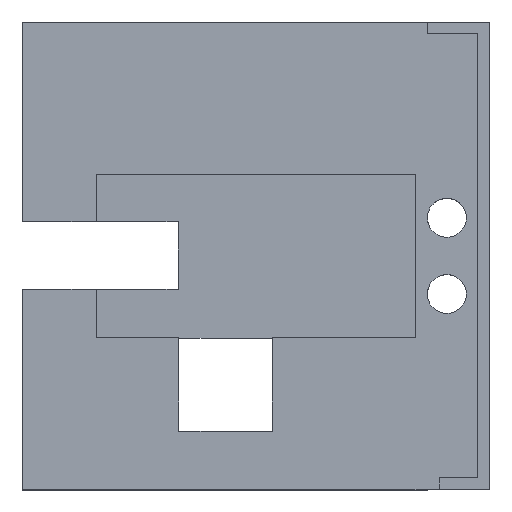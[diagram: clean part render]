
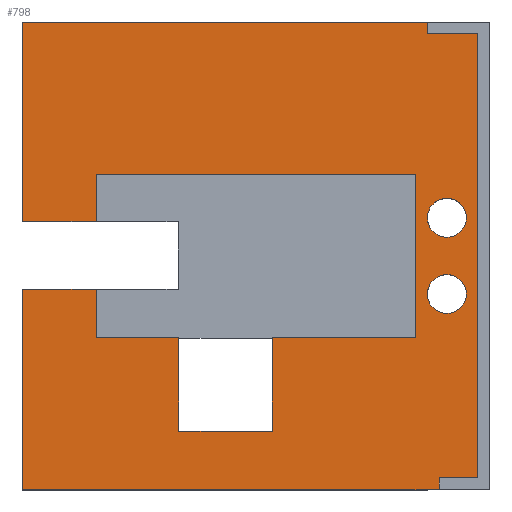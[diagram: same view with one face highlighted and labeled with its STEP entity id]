
A CAD part, top view. The second image highlights one B-rep face of the part: STEP entity #798.
In plain terms, the highlighted planar face has unit normal (0, 0, 1).
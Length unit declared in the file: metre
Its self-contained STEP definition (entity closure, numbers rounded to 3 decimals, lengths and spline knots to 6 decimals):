
#28=LINE('',#1138,#115);
#29=LINE('',#1141,#116);
#30=LINE('',#1143,#117);
#31=LINE('',#1145,#118);
#32=LINE('',#1147,#119);
#33=LINE('',#1149,#120);
#34=LINE('',#1151,#121);
#35=LINE('',#1153,#122);
#36=LINE('',#1155,#123);
#37=LINE('',#1157,#124);
#38=LINE('',#1159,#125);
#39=LINE('',#1161,#126);
#40=LINE('',#1163,#127);
#41=LINE('',#1165,#128);
#42=LINE('',#1167,#129);
#43=LINE('',#1169,#130);
#44=LINE('',#1171,#131);
#45=LINE('',#1173,#132);
#46=LINE('',#1175,#133);
#47=LINE('',#1177,#134);
#115=VECTOR('',#925,1.);
#116=VECTOR('',#926,1.);
#117=VECTOR('',#927,1.);
#118=VECTOR('',#928,1.);
#119=VECTOR('',#929,1.);
#120=VECTOR('',#930,1.);
#121=VECTOR('',#931,1.);
#122=VECTOR('',#932,1.);
#123=VECTOR('',#933,1.);
#124=VECTOR('',#934,1.);
#125=VECTOR('',#935,1.);
#126=VECTOR('',#936,1.);
#127=VECTOR('',#937,1.);
#128=VECTOR('',#938,1.);
#129=VECTOR('',#939,1.);
#130=VECTOR('',#940,1.);
#131=VECTOR('',#941,1.);
#132=VECTOR('',#942,1.);
#133=VECTOR('',#943,1.);
#134=VECTOR('',#944,1.);
#202=ORIENTED_EDGE('',*,*,#424,.F.);
#203=ORIENTED_EDGE('',*,*,#425,.F.);
#204=ORIENTED_EDGE('',*,*,#426,.T.);
#205=ORIENTED_EDGE('',*,*,#427,.T.);
#206=ORIENTED_EDGE('',*,*,#428,.F.);
#207=ORIENTED_EDGE('',*,*,#429,.T.);
#208=ORIENTED_EDGE('',*,*,#430,.T.);
#209=ORIENTED_EDGE('',*,*,#431,.F.);
#210=ORIENTED_EDGE('',*,*,#432,.F.);
#211=ORIENTED_EDGE('',*,*,#433,.T.);
#212=ORIENTED_EDGE('',*,*,#434,.F.);
#213=ORIENTED_EDGE('',*,*,#435,.F.);
#214=ORIENTED_EDGE('',*,*,#436,.T.);
#215=ORIENTED_EDGE('',*,*,#437,.T.);
#216=ORIENTED_EDGE('',*,*,#438,.F.);
#217=ORIENTED_EDGE('',*,*,#439,.F.);
#218=ORIENTED_EDGE('',*,*,#440,.F.);
#219=ORIENTED_EDGE('',*,*,#441,.T.);
#220=ORIENTED_EDGE('',*,*,#442,.F.);
#221=ORIENTED_EDGE('',*,*,#443,.F.);
#222=ORIENTED_EDGE('',*,*,#444,.T.);
#223=ORIENTED_EDGE('',*,*,#445,.T.);
#424=EDGE_CURVE('',#535,#535,#613,.T.);
#425=EDGE_CURVE('',#536,#536,#614,.T.);
#426=EDGE_CURVE('',#537,#538,#28,.T.);
#427=EDGE_CURVE('',#538,#539,#29,.T.);
#428=EDGE_CURVE('',#540,#539,#30,.T.);
#429=EDGE_CURVE('',#540,#541,#31,.T.);
#430=EDGE_CURVE('',#541,#542,#32,.T.);
#431=EDGE_CURVE('',#543,#542,#33,.T.);
#432=EDGE_CURVE('',#544,#543,#34,.T.);
#433=EDGE_CURVE('',#544,#545,#35,.T.);
#434=EDGE_CURVE('',#546,#545,#36,.T.);
#435=EDGE_CURVE('',#547,#546,#37,.T.);
#436=EDGE_CURVE('',#547,#548,#38,.T.);
#437=EDGE_CURVE('',#548,#549,#39,.T.);
#438=EDGE_CURVE('',#550,#549,#40,.T.);
#439=EDGE_CURVE('',#551,#550,#41,.T.);
#440=EDGE_CURVE('',#552,#551,#42,.T.);
#441=EDGE_CURVE('',#552,#553,#43,.T.);
#442=EDGE_CURVE('',#554,#553,#44,.T.);
#443=EDGE_CURVE('',#555,#554,#45,.T.);
#444=EDGE_CURVE('',#555,#556,#46,.T.);
#445=EDGE_CURVE('',#556,#537,#47,.T.);
#535=VERTEX_POINT('',#1135);
#536=VERTEX_POINT('',#1137);
#537=VERTEX_POINT('',#1139);
#538=VERTEX_POINT('',#1140);
#539=VERTEX_POINT('',#1142);
#540=VERTEX_POINT('',#1144);
#541=VERTEX_POINT('',#1146);
#542=VERTEX_POINT('',#1148);
#543=VERTEX_POINT('',#1150);
#544=VERTEX_POINT('',#1152);
#545=VERTEX_POINT('',#1154);
#546=VERTEX_POINT('',#1156);
#547=VERTEX_POINT('',#1158);
#548=VERTEX_POINT('',#1160);
#549=VERTEX_POINT('',#1162);
#550=VERTEX_POINT('',#1164);
#551=VERTEX_POINT('',#1166);
#552=VERTEX_POINT('',#1168);
#553=VERTEX_POINT('',#1170);
#554=VERTEX_POINT('',#1172);
#555=VERTEX_POINT('',#1174);
#556=VERTEX_POINT('',#1176);
#613=CIRCLE('',#855,0.0025);
#614=CIRCLE('',#856,0.0025);
#633=EDGE_LOOP('',(#202));
#634=EDGE_LOOP('',(#203));
#635=EDGE_LOOP('',(#204,#205,#206,#207,#208,#209,#210,#211,#212,#213,#214,
#215,#216,#217,#218,#219,#220,#221,#222,#223));
#700=FACE_BOUND('',#633,.T.);
#701=FACE_BOUND('',#634,.T.);
#702=FACE_BOUND('',#635,.T.);
#767=PLANE('',#854);
#798=ADVANCED_FACE('',(#700,#701,#702),#767,.T.);
#854=AXIS2_PLACEMENT_3D('',#1133,#919,#920);
#855=AXIS2_PLACEMENT_3D('',#1134,#921,#922);
#856=AXIS2_PLACEMENT_3D('',#1136,#923,#924);
#919=DIRECTION('',(0.,0.,1.));
#920=DIRECTION('',(1.,0.,0.));
#921=DIRECTION('',(0.,0.,1.));
#922=DIRECTION('',(1.,0.,0.));
#923=DIRECTION('',(0.,0.,1.));
#924=DIRECTION('',(1.,0.,0.));
#925=DIRECTION('',(1.,0.,0.));
#926=DIRECTION('',(0.,1.,0.));
#927=DIRECTION('',(-1.,0.,0.));
#928=DIRECTION('',(0.,1.,0.));
#929=DIRECTION('',(-1.,0.,0.));
#930=DIRECTION('',(0.,-1.,0.));
#931=DIRECTION('',(1.,0.,0.));
#932=DIRECTION('',(0.,-1.,0.));
#933=DIRECTION('',(-1.,0.,0.));
#934=DIRECTION('',(0.,-1.,0.));
#935=DIRECTION('',(1.,0.,0.));
#936=DIRECTION('',(0.,-1.,0.));
#937=DIRECTION('',(1.,0.,0.));
#938=DIRECTION('',(0.,1.,0.));
#939=DIRECTION('',(1.,0.,0.));
#940=DIRECTION('',(0.,1.,0.));
#941=DIRECTION('',(1.,0.,0.));
#942=DIRECTION('',(0.,-1.,0.));
#943=DIRECTION('',(-1.,0.,0.));
#944=DIRECTION('',(0.,-1.,0.));
#1133=CARTESIAN_POINT('',(0.000035,0.247,0.028));
#1134=CARTESIAN_POINT('',(0.024535,0.2519,0.028));
#1135=CARTESIAN_POINT('',(0.027035,0.2519,0.028));
#1136=CARTESIAN_POINT('',(0.024535,0.2421,0.028));
#1137=CARTESIAN_POINT('',(0.027035,0.2421,0.028));
#1138=CARTESIAN_POINT('',(0.000035,0.217,0.028));
#1139=CARTESIAN_POINT('',(-0.029965,0.217,0.028));
#1140=CARTESIAN_POINT('',(0.023535,0.217,0.028));
#1141=CARTESIAN_POINT('',(0.023535,0.21775,0.028));
#1142=CARTESIAN_POINT('',(0.023535,0.2185,0.028));
#1143=CARTESIAN_POINT('',(0.026035,0.2185,0.028));
#1144=CARTESIAN_POINT('',(0.028535,0.2185,0.028));
#1145=CARTESIAN_POINT('',(0.028535,0.247,0.028));
#1146=CARTESIAN_POINT('',(0.028535,0.2755,0.028));
#1147=CARTESIAN_POINT('',(0.025285,0.2755,0.028));
#1148=CARTESIAN_POINT('',(0.022035,0.2755,0.028));
#1149=CARTESIAN_POINT('',(0.022035,0.27625,0.028));
#1150=CARTESIAN_POINT('',(0.022035,0.277,0.028));
#1151=CARTESIAN_POINT('',(0.000035,0.277,0.028));
#1152=CARTESIAN_POINT('',(-0.029965,0.277,0.028));
#1153=CARTESIAN_POINT('',(-0.029965,0.247,0.028));
#1154=CARTESIAN_POINT('',(-0.029965,0.251446,0.028));
#1155=CARTESIAN_POINT('',(0.028037,0.251446,0.028));
#1156=CARTESIAN_POINT('',(-0.020465,0.251446,0.028));
#1157=CARTESIAN_POINT('',(-0.020465,0.247,0.028));
#1158=CARTESIAN_POINT('',(-0.020465,0.2575,0.028));
#1159=CARTESIAN_POINT('',(0.000035,0.2575,0.028));
#1160=CARTESIAN_POINT('',(0.020535,0.2575,0.028));
#1161=CARTESIAN_POINT('',(0.020535,0.247,0.028));
#1162=CARTESIAN_POINT('',(0.020535,0.2365,0.028));
#1163=CARTESIAN_POINT('',(0.000035,0.2365,0.028));
#1164=CARTESIAN_POINT('',(0.002135,0.2365,0.028));
#1165=CARTESIAN_POINT('',(0.002135,0.2305,0.028));
#1166=CARTESIAN_POINT('',(0.002135,0.2245,0.028));
#1167=CARTESIAN_POINT('',(-0.003865,0.2245,0.028));
#1168=CARTESIAN_POINT('',(-0.009865,0.2245,0.028));
#1169=CARTESIAN_POINT('',(-0.009865,0.2305,0.028));
#1170=CARTESIAN_POINT('',(-0.009865,0.2365,0.028));
#1171=CARTESIAN_POINT('',(0.000035,0.2365,0.028));
#1172=CARTESIAN_POINT('',(-0.020465,0.2365,0.028));
#1173=CARTESIAN_POINT('',(-0.020465,0.247,0.028));
#1174=CARTESIAN_POINT('',(-0.020465,0.242743,0.028));
#1175=CARTESIAN_POINT('',(0.028037,0.242743,0.028));
#1176=CARTESIAN_POINT('',(-0.029965,0.242743,0.028));
#1177=CARTESIAN_POINT('',(-0.029965,0.247,0.028));
